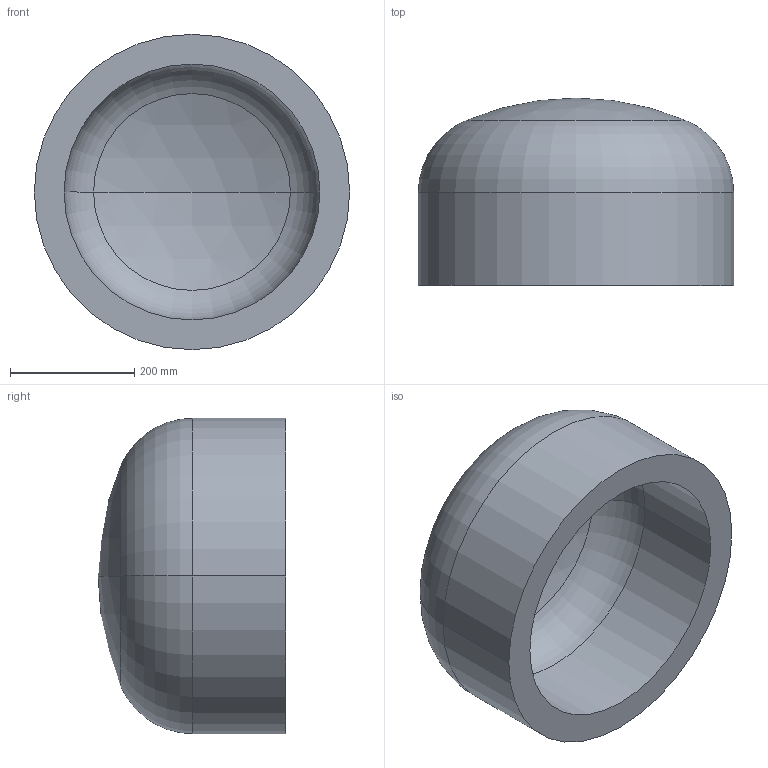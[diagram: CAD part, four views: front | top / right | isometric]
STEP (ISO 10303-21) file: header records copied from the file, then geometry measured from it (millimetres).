
FILE_DESCRIPTION (( 'STEP AP203' ), '1' );
FILE_NAME ('DIN 28013 Korbbogenform_-_Boden DIN 28013 - 508 x 150 - I - s=48.step', '2016-07-01T07:55:28', ( '' ), ( '' ), 'SwSTEP 2.0', 'SolidWorks 2013', '' );
FILE_SCHEMA (( 'CONFIG_CONTROL_DESIGN' ));
Length unit declared in the file: millimetre
Products named in the file (1): DIN 28013 Korbbogenform_-_Boden DIN 28013 - 508 x 150 - I - s=48
Bounding box: 508 x 302.01 x 508 mm (x, y, z)
Volume: 22379919.7 mm3; surface area: 1006688.4 mm2
Topology: 1 solids, 1 shells, 13 faces, 24 edges, 14 vertices
Faces by surface type: torus 4, cylinder 4, sphere 4, plane 1
Entity records: 407 total; most frequent: DIRECTION 72, CARTESIAN_POINT 52, ORIENTED_EDGE 48, AXIS2_PLACEMENT_3D 34, EDGE_CURVE 24, CIRCLE 20, VERTEX_POINT 14, EDGE_LOOP 14
